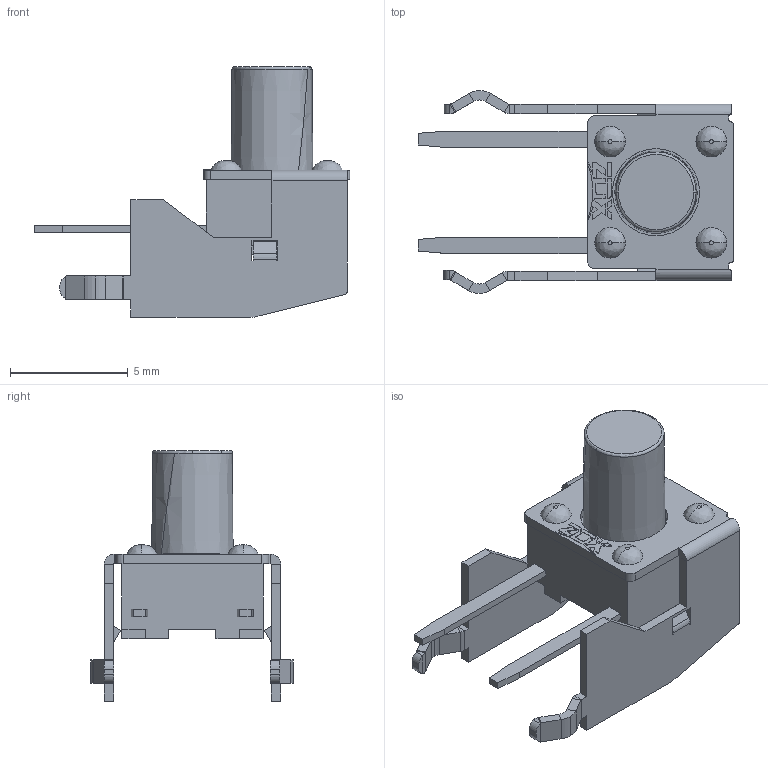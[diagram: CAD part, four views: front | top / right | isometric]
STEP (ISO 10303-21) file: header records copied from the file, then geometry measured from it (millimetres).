
FILE_DESCRIPTION((''),'2;1');
FILE_NAME('ASM0002_ASM','2024-01-06T',('WYH'),(''),'PRO/ENGINEER BY PARAMETRIC TECHNOLOGY CORPORATION, 2013040','PRO/ENGINEER BY PARAMETRIC TECHNOLOGY CORPORATION, 2013040','');
FILE_SCHEMA(('CONFIG_CONTROL_DESIGN'));
Length unit declared in the file: millimetre
Products named in the file (1): ASM0002_ASM
Bounding box: 13.4 x 8.62 x 10.66 mm (x, y, z)
Volume: 122.6 mm3; surface area: 628.1 mm2
Topology: 2 solids, 6 shells, 367 faces, 908 edges, 567 vertices
Faces by surface type: plane 249, cylinder 88, bspline 18, cone 6, torus 6
Entity records: 11256 total; most frequent: CARTESIAN_POINT 2483, DIRECTION 1802, ORIENTED_EDGE 1802, EDGE_CURVE 904, VECTOR 658, LINE 658, AXIS2_PLACEMENT_3D 572, VERTEX_POINT 567
